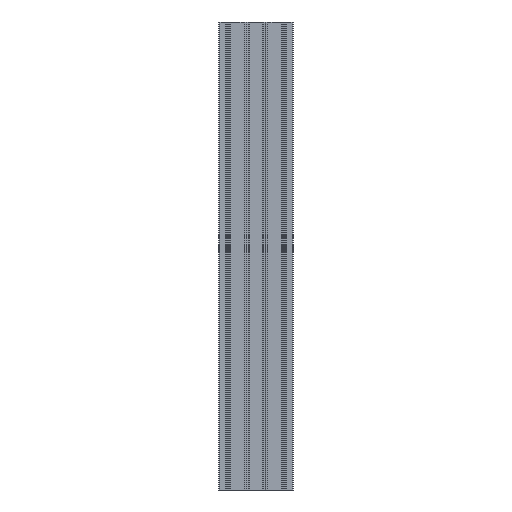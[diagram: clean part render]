
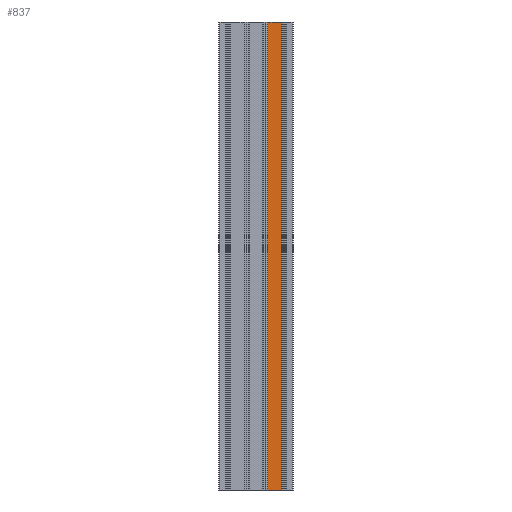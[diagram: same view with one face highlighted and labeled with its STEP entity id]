
A CAD part, front view. The second image highlights one B-rep face of the part: STEP entity #837.
In plain terms, the highlighted planar face has unit normal (0, -1, 0).
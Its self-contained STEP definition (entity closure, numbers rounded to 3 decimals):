
#125 = EDGE_LOOP ( 'NONE', ( #4128, #5019, #6744, #8877 ) ) ;
#496 = VERTEX_POINT ( 'NONE', #2083 ) ;
#837 = ADVANCED_FACE ( 'NONE', ( #2753 ), #10245, .T. ) ;
#1078 = LINE ( 'NONE', #2445, #10728 ) ;
#1238 = DIRECTION ( 'NONE',  ( 0., 0., 1. ) ) ;
#1938 = DIRECTION ( 'NONE',  ( 1., 0., 0. ) ) ;
#2083 = CARTESIAN_POINT ( 'NONE',  ( 85.095, -59.996, 0. ) ) ;
#2399 = EDGE_CURVE ( 'NONE', #10698, #6969, #1078, .T. ) ;
#2445 = CARTESIAN_POINT ( 'NONE',  ( 114.895, -59.996, -1000. ) ) ;
#2753 = FACE_OUTER_BOUND ( 'NONE', #125, .T. ) ;
#2799 = VECTOR ( 'NONE', #1938, 1000. ) ;
#2994 = DIRECTION ( 'NONE',  ( 1., 0., 0. ) ) ;
#3201 = CARTESIAN_POINT ( 'NONE',  ( 114.895, -59.996, -1000. ) ) ;
#3521 = LINE ( 'NONE', #7802, #6488 ) ;
#3950 = DIRECTION ( 'NONE',  ( 1., 0., 0. ) ) ;
#4128 = ORIENTED_EDGE ( 'NONE', *, *, #11953, .F. ) ;
#5019 = ORIENTED_EDGE ( 'NONE', *, *, #9824, .F. ) ;
#6131 = LINE ( 'NONE', #3201, #2799 ) ;
#6238 = VECTOR ( 'NONE', #2994, 1000. ) ;
#6488 = VECTOR ( 'NONE', #14099, 1000. ) ;
#6744 = ORIENTED_EDGE ( 'NONE', *, *, #6883, .T. ) ;
#6883 = EDGE_CURVE ( 'NONE', #13787, #10698, #6131, .T. ) ;
#6969 = VERTEX_POINT ( 'NONE', #7156 ) ;
#7156 = CARTESIAN_POINT ( 'NONE',  ( 114.895, -59.996, 0. ) ) ;
#7704 = CARTESIAN_POINT ( 'NONE',  ( 114.895, -59.996, -1000. ) ) ;
#7802 = CARTESIAN_POINT ( 'NONE',  ( 85.095, -59.996, -1000. ) ) ;
#8161 = AXIS2_PLACEMENT_3D ( 'NONE', #7704, #11527, #3950 ) ;
#8877 = ORIENTED_EDGE ( 'NONE', *, *, #2399, .T. ) ;
#9267 = CARTESIAN_POINT ( 'NONE',  ( 114.895, -59.996, 0. ) ) ;
#9824 = EDGE_CURVE ( 'NONE', #13787, #496, #3521, .T. ) ;
#10245 = PLANE ( 'NONE',  #8161 ) ;
#10698 = VERTEX_POINT ( 'NONE', #12425 ) ;
#10728 = VECTOR ( 'NONE', #1238, 1000. ) ;
#11527 = DIRECTION ( 'NONE',  ( 0., -1., 0. ) ) ;
#11953 = EDGE_CURVE ( 'NONE', #496, #6969, #16329, .T. ) ;
#12425 = CARTESIAN_POINT ( 'NONE',  ( 114.895, -59.996, -1000. ) ) ;
#13787 = VERTEX_POINT ( 'NONE', #16018 ) ;
#14099 = DIRECTION ( 'NONE',  ( 0., 0., 1. ) ) ;
#16018 = CARTESIAN_POINT ( 'NONE',  ( 85.095, -59.996, -1000. ) ) ;
#16329 = LINE ( 'NONE', #9267, #6238 ) ;
